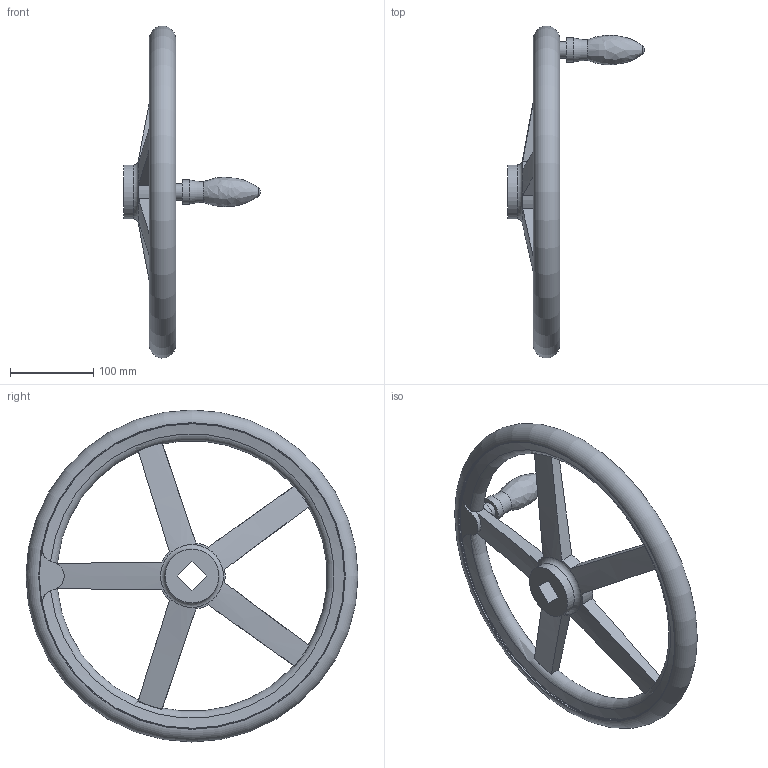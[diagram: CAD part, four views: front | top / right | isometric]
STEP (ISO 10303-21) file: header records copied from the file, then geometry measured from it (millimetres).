
FILE_DESCRIPTION( ( 'STEP AP203' ), '1' );
FILE_NAME( 'C:/Temp/Ganter_Step_05_03_2020/data/1_3/din_950/din_950_v/din_950_v_d/Handwheel DIN 950-AL-400-V24-D.stp', '2020-03-05T10:31:42', ( 'License CC BY-ND 4.0' ), ( 'CADENAS' ), ' ', 'PARTsolutions', ' ' );
FILE_SCHEMA( ( 'CONFIG_CONTROL_DESIGN' ) );
Length unit declared in the file: millimetre
Products named in the file (1): _Handwheel DIN 950-AL-400-V24-D
Bounding box: 165 x 399.9 x 399.9 mm (x, y, z)
Volume: 1444287.3 mm3; surface area: 210836.8 mm2
Topology: 1 solids, 1 shells, 61 faces, 180 edges, 116 vertices
Faces by surface type: torus 19, plane 19, cylinder 17, cone 4, bspline 1, sphere 1
Full cylindrical faces by diameter (mm): 20 x1, 29 x1, 65 x2, 368 x2
Entity records: 2515 total; most frequent: CARTESIAN_POINT 1017, ORIENTED_EDGE 312, DIRECTION 268, EDGE_CURVE 156, AXIS2_PLACEMENT_3D 119, VERTEX_POINT 112, EDGE_LOOP 86, FACE_OUTER_BOUND 76
